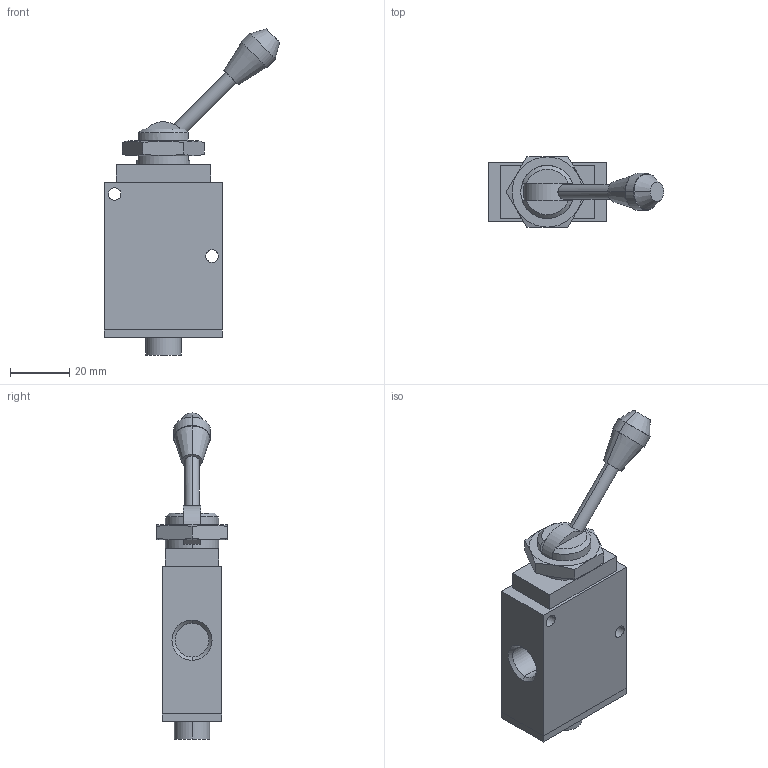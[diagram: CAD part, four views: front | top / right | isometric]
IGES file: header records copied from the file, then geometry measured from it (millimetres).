
Global section: file name: No Iges File Name specified; native system: AutoDesk Inventor R11.0; preprocessor: AutoDesk Inventor Iges Exporter R11.0; author: No Author specified; organization: No Organization specified; date: 20061219.113334; units: millimetre
Bounding box: 59.42 x 24 x 110.42 mm (x, y, z)
Volume: 48689.8 mm3; surface area: 14215.9 mm2
Topology: 3 solids, 3 shells, 88 faces, 204 edges, 132 vertices
Faces by surface type: plane 38, bspline 21, revolution 12, cylinder 9, cone 8
